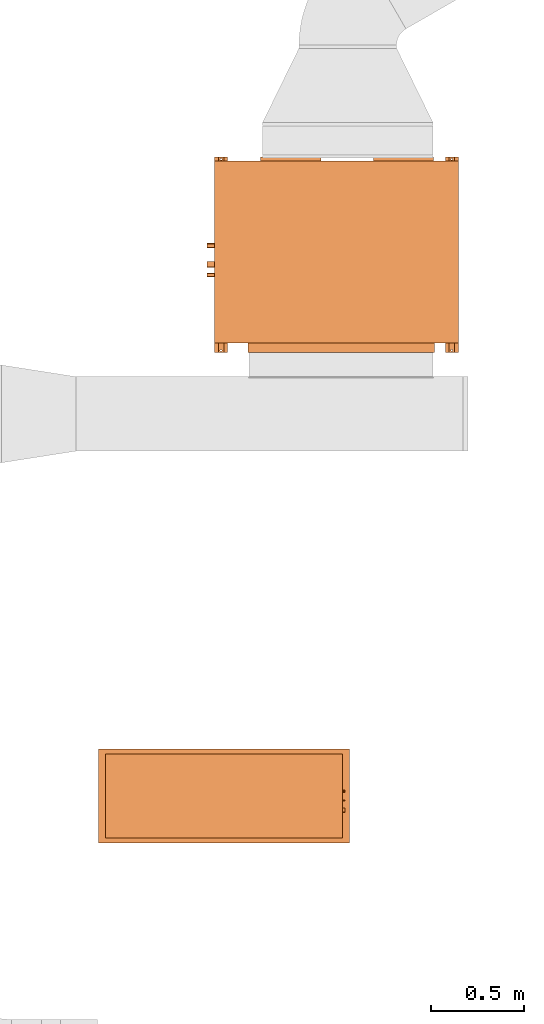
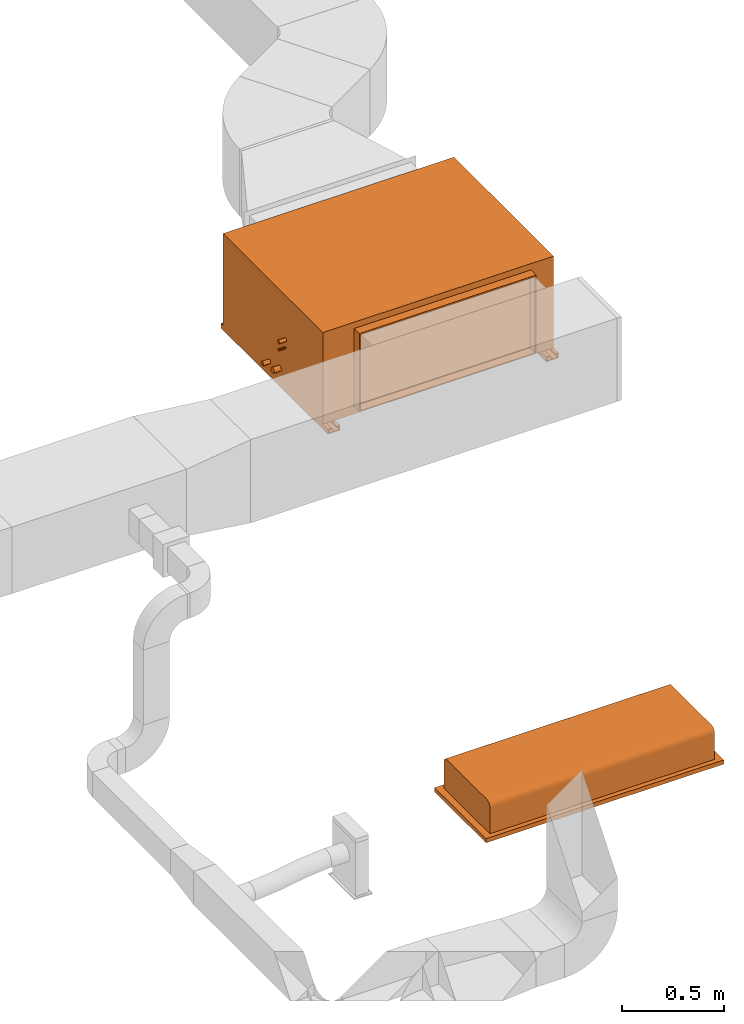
# One storey, part 58 of 60: 2 proxies, 4 openings.
"""IFC2X3 building model written with IfcOpenShell, lengths in millimetres."""

from ifc_helpers import new_model, entity, si_unit, converted_unit, derived_unit, direction, frame, frame_2d, origin, origin_2d_with_axis, place, context, subcontext, project, spatial, polyline, circle_curve, parameter, trimmed, segment, composite_curve, rectangle, circle, outline, extrude, source, transform, mapped, material, material_list, type_object, type_shapes, element, save


model = new_model("IFC2X3")

# Units and contexts
model_context = context("Model", 3, precision=0.01, world=origin(), true_north=direction((6.123233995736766e-17, 1.0)))
body_context = subcontext(model_context, "Body", "Model", "MODEL_VIEW")
ifc_project = project(units=[si_unit("LENGTHUNIT", "METRE", prefix="MILLI"), converted_unit("PLANEANGLEUNIT", "DEGREE", entity("IfcPlaneAngleMeasure", 0.017453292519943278), si_unit("PLANEANGLEUNIT", "RADIAN"), dimensions=[0, 0, 0, 0, 0, 0, 0]), si_unit("AREAUNIT", "SQUARE_METRE"), derived_unit("THERMALTRANSMITTANCEUNIT", [(si_unit("MASSUNIT", "GRAM", prefix="KILO"), 1), (si_unit("THERMODYNAMICTEMPERATUREUNIT", "KELVIN"), -1), (si_unit("TIMEUNIT", "SECOND"), -3)])], contexts=[model_context])

# Site, building, storey
site_placement = place(None, origin())
site = spatial("IfcSite", under=ifc_project, at=site_placement, Name="Default", CompositionType="ELEMENT")
building_placement = place(site_placement, origin())
building = spatial("IfcBuilding", under=site, at=building_placement, Name="Praça Pedro II, 1301 - Centro (Sul), Teresina - PI, 64001-100", CompositionType="ELEMENT")
storey_placement = place(building_placement, frame((0.0, 0.0, 6040.0)))
storey = spatial("IfcBuildingStorey", under=building, at=storey_placement, Name="2PAV", CompositionType="ELEMENT", Elevation=6040.0)

# Proxy
ifc_material_1 = material(Name="grilles：ABS/HIPS")
building_element_proxy_type_1 = type_object("IfcBuildingElementProxyType", Name="V8 One-way cassette 4.5-7.1kW Revit:7.1kW", PredefinedType="NOTDEFINED", material=ifc_material_1)
shared_shape_1 = source(origin(), body_context, "Body", "SweptSolid", [
    extrude(circle(Radius=12.5, at=frame_2d((0.0, -1.6919798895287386e-14), x_axis=(1.0, 0.0))), frame((-564.3577958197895, 76.32030627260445, 144.0), z_axis=(1.0, 0.0, 0.0), x_axis=(0.0, -1.0, 0.0)), (0.0, 0.0, 1.0), 45.78156809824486),
    extrude(circle(Radius=3.1749999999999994, at=origin_2d_with_axis()), frame((-564.3577958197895, 25.48785540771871, 76.0), z_axis=(1.0, 0.0, 0.0), x_axis=(0.0, -1.0, 0.0)), (0.0, 0.0, 1.0), 45.78156809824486),
    extrude(circle(Radius=6.35, at=frame_2d((0.0, -8.459899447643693e-15), x_axis=(1.0, 0.0))), frame((-564.3577958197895, -24.474937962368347, 76.0), z_axis=(1.0, 0.0, 0.0), x_axis=(0.0, -1.0, 0.0)), (0.0, 0.0, 1.0), 45.78156809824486),
    extrude(rectangle(XDim=1349.9999999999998, YDim=505.0000000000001, at=frame_2d((0.0, -2.842170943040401e-14), x_axis=(1.0, 0.0))), frame((85.0, 0.0, 0.0), z_axis=(0.0, 0.0, 1.0), x_axis=(-1.0, 0.0, 0.0)), (0.0, 0.0, 1.0), 24.999999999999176),
    extrude(outline(composite_curve([segment(trimmed(circle_curve(frame_2d((196.0, 43.0), x_axis=(1.0, 0.0)), 29.99999999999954), [parameter(359.99999999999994)], [parameter(89.99999999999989)], True, "PARAMETER"), True, "CONTINUOUS"), segment(polyline([(196.0, 73.0), (-196.0, 73.0)]), True, "CONTINUOUS"), segment(trimmed(circle_curve(frame_2d((-196.0, 43.0), x_axis=(1.0, 0.0)), 30.00000000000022), [parameter(89.99999999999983)], [parameter(180.0000000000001)], True, "PARAMETER"), True, "CONTINUOUS"), segment(polyline([(-226.0, 43.0), (-226.0, -116.0)]), True, "CONTINUOUS"), segment(polyline([(-226.0, -116.0), (226.0, -116.0)]), True, "CONTINUOUS"), segment(polyline([(226.0, -116.0), (226.0, 43.0)]), True, "CONTINUOUS")], self_intersect=False)), frame((-552.5000000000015, 0.0, 141.0), z_axis=(1.0, 0.0, 0.0), x_axis=(0.0, 1.0, 0.0)), (0.0, 0.0, 1.0), 1274.9999999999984),
])
type_shapes(building_element_proxy_type_1, [shared_shape_1])
proxy_1_placement = place(storey_placement, frame((38313.3814642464, -65201.19167653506, 2465.0), z_axis=(0.0, 0.0, 1.0), x_axis=(-1.0, 0.0, 0.0)))
element("IfcBuildingElementProxy", 1, at=proxy_1_placement, inside=storey, type_object=building_element_proxy_type_1, material=ifc_material_1, Name="V8 One-way cassette 4.5-7.1kW Revit:7.1kW", ObjectType="V8 One-way cassette 4.5-7.1kW Revit:7.1kW", context=body_context, shape_type="MappedRepresentation", body=[
    mapped(shared_shape_1, transform((0.0, 0.0, 0.0), scale=1.0)),
])

# Proxy, openings
ifc_material_2 = material(Name="Galvanized Steel")
ifc_material_list = material_list([ifc_material_2, ifc_material_1])
building_element_proxy_type_2 = type_object("IfcBuildingElementProxyType", Name="V8 duto alta 20-33.5kW:28kW", PredefinedType="NOTDEFINED", material=ifc_material_list)
shared_shape_2 = source(origin(), body_context, "Body", "SweptSolid", [
    extrude(outline(polyline([(-19.166666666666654, -35.0), (10.833333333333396, -35.0), (10.833333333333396, -15.0), (5.833333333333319, -15.0), (5.833333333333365, -30.0), (-14.166666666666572, -30.0), (-14.166666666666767, 30.0), (5.8333333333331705, 30.0), (5.833333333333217, 15.0), (10.83333333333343, 15.0), (10.833333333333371, 35.0), (-19.166666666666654, 35.0), (-19.166666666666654, -35.0)])), frame((-620.0, -475.0, 19.166666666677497), z_axis=(0.0, 1.0, 0.0), x_axis=(0.0, 0.0, 1.0)), (0.0, 0.0, 1.0), 1049.9999999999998),
    extrude(outline(polyline([(-35.0, -19.166666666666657), (35.0, -19.166666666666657), (35.0, 10.833333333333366), (15.0, 10.833333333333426), (15.0, 5.833333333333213), (30.0, 5.833333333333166), (30.0, -14.16666666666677), (-30.0, -14.166666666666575), (-30.0, 5.833333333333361), (-15.0, 5.833333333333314), (-15.0, 10.83333333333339), (-35.0, 10.83333333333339), (-35.0, -19.166666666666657)])), frame((620.0, -475.0, 19.16666666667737), z_axis=(0.0, 1.0, 0.0), x_axis=(-1.0, 0.0, 0.0)), (0.0, 0.0, 1.0), 1049.9999999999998),
    extrude(rectangle(XDim=1310.0000000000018, YDim=979.9999999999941, at=frame_2d((-7.389644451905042e-13, 98.0000000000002), x_axis=(1.0, 0.0))), frame((0.0, 133.0, 30.0), z_axis=(0.0, 0.0, 1.0), x_axis=(-1.0, 0.0, 0.0)), (0.0, 0.0, 1.0), 550.0000000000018),
    extrude(circle(Radius=16.0, at=frame_2d((0.0, -3.383959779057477e-14), x_axis=(1.0, 0.0))), frame((650.0, 101.23652360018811, 110.14602759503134), z_axis=(1.0, 0.0, 0.0), x_axis=(0.0, 1.0, 0.0)), (0.0, 0.0, 1.0), 45.000000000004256),
    extrude(circle(Radius=12.5, at=frame_2d((-1.4167645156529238e-16, -1.6919798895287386e-14), x_axis=(1.0, 0.0))), frame((650.0, 0.0, 88.75854730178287), z_axis=(1.0, 0.0, 0.0), x_axis=(0.0, 1.0, 0.0)), (0.0, 0.0, 1.0), 45.00000000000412),
    extrude(outline(polyline([(-501.792, -235.0), (501.7920000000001, -235.0), (501.792, 235.0), (-501.792, 235.0), (-501.792, -235.0)]), holes=[polyline([(-495.189897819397, -226.0), (-495.1898978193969, 230.0), (494.8099961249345, 230.0), (494.8099961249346, -226.0), (-495.189897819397, -226.0)])]), frame((-25.20800000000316, 525.0, 307.0), z_axis=(0.0, 1.0, 0.0), x_axis=(1.0, 0.0, 0.0)), (0.0, 0.0, 1.0), 50.00000000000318),
    extrude(circle(Radius=6.35, at=frame_2d((0.0, -3.383959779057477e-14), x_axis=(1.0, 0.0))), frame((650.0, 158.3867710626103, 267.5678621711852), z_axis=(1.0, 0.0, 0.0), x_axis=(0.0, 1.0, 0.0)), (0.0, 0.0, 1.0), 45.000000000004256),
    extrude(circle(Radius=11.1, at=frame_2d((0.0, -6.767919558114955e-14), x_axis=(1.0, 0.0))), frame((650.0, 159.18274708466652, 316.10525776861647), z_axis=(1.0, 0.0, 0.0), x_axis=(0.0, 1.0, 0.0)), (0.0, 0.0, 1.0), 45.000000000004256),
    extrude(outline(polyline([(-140.29102983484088, -161.96563966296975), (140.29102983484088, -161.96563966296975), (140.29102983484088, 161.96563966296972), (-140.29102983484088, 161.96563966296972), (-140.29102983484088, -161.96563966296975)]), holes=[polyline([(-134.51017683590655, -155.65064266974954), (-134.51017683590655, 155.34960360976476), (133.47606684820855, 155.3496036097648), (133.47606684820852, -155.6506426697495), (-134.51017683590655, -155.65064266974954)])]), frame((-360.03966162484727, -475.0, 370.9802738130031), z_axis=(0.0, 1.0, 0.0), x_axis=(0.0, 0.0, -1.0)), (0.0, 0.0, 1.0), 19.999999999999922),
    extrude(outline(polyline([(-140.29102983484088, -161.96563966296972), (140.29102983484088, -161.96563966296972), (140.29102983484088, 161.96563966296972), (-140.29102983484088, 161.96563966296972), (-140.29102983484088, -161.96563966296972)]), holes=[polyline([(-134.51017683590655, -155.6506426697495), (-134.51017683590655, 155.3496036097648), (133.47606684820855, 155.3496036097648), (133.47606684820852, -155.6506426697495), (-134.51017683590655, -155.6506426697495)])]), frame((245.9603383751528, -475.0, 370.9802738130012), z_axis=(0.0, 1.0, 0.0), x_axis=(0.0, 0.0, -1.0)), (0.0, 0.0, 1.0), 19.999999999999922),
])
type_shapes(building_element_proxy_type_2, [shared_shape_2])
proxy_2_placement = place(storey_placement, frame((38832.663175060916, -62243.250224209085, 3100.0), z_axis=(0.0, 0.0, 1.0), x_axis=(-1.0, 0.0, 0.0)))
proxy_2 = element("IfcBuildingElementProxy", 2, at=proxy_2_placement, inside=storey, type_object=building_element_proxy_type_2, material=ifc_material_list, Name="V8 duto alta 20-33.5kW:28kW", ObjectType="V8 duto alta 20-33.5kW:28kW", context=body_context, shape_type="MappedRepresentation", body=[
    mapped(shared_shape_2, transform((0.0, 0.0, 0.0), scale=1.0)),
])
opening_1_placement = place(storey_placement, frame((38832.663175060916, -62243.250224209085, 9140.0)))
element("IfcOpeningElement", 3, at=opening_1_placement, cuts=proxy_2, Name="V8 duto alta 20-33.5kW:28kW:1", ObjectType="Opening", context=body_context, shape_type="SweptSolid", body=[
    extrude(circle(Radius=5.000000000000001, at=origin_2d_with_axis()), frame((-620.0, 464.0, -6035.0), z_axis=(0.0, 0.0, -1.0), x_axis=(0.0, -1.0, 0.0)), (0.0, 0.0, 1.0), 4.999999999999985),
])
opening_2_placement = place(storey_placement, frame((38832.663175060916, -62243.250224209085, 9140.0)))
element("IfcOpeningElement", 4, at=opening_2_placement, cuts=proxy_2, Name="V8 duto alta 20-33.5kW:28kW:2", ObjectType="Opening", context=body_context, shape_type="SweptSolid", body=[
    extrude(circle(Radius=5.0, at=origin_2d_with_axis()), frame((-620.0, -564.0, -6035.0), z_axis=(0.0, 0.0, -1.0), x_axis=(0.0, -1.0, 0.0)), (0.0, 0.0, 1.0), 4.999999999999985),
])
opening_3_placement = place(storey_placement, frame((38832.663175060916, -62243.250224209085, 9140.0)))
element("IfcOpeningElement", 5, at=opening_3_placement, cuts=proxy_2, Name="V8 duto alta 20-33.5kW:28kW:3", ObjectType="Opening", context=body_context, shape_type="SweptSolid", body=[
    extrude(circle(Radius=5.000000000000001, at=origin_2d_with_axis()), frame((620.0, 464.0, -6035.0), z_axis=(0.0, 0.0, -1.0), x_axis=(0.0, -1.0, 0.0)), (0.0, 0.0, 1.0), 4.999999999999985),
])
opening_4_placement = place(storey_placement, frame((38832.663175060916, -62243.250224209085, 9140.0)))
element("IfcOpeningElement", 6, at=opening_4_placement, cuts=proxy_2, Name="V8 duto alta 20-33.5kW:28kW:4", ObjectType="Opening", context=body_context, shape_type="SweptSolid", body=[
    extrude(circle(Radius=5.0, at=origin_2d_with_axis()), frame((620.0, -564.0, -6035.0), z_axis=(0.0, 0.0, -1.0), x_axis=(0.0, -1.0, 0.0)), (0.0, 0.0, 1.0), 4.999999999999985),
])

save(model, "model.ifc")
